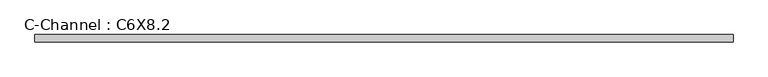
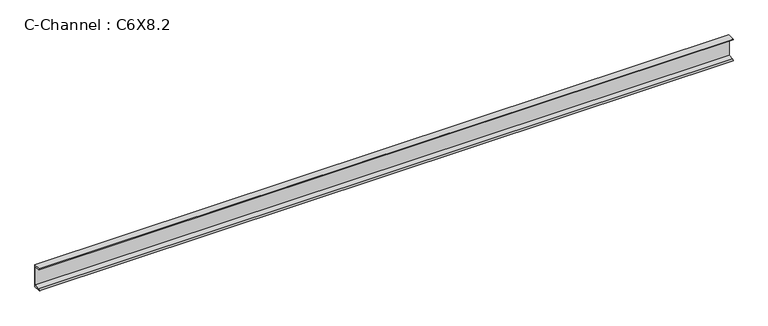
"""IFC4 building model written with IfcOpenShell, lengths in millimetres: beam geometry, C-Channel : C6X8.2."""

import ifcopenshell
import ifcopenshell.guid

model = None  # the IFC model being written
_history = None  # IfcOwnerHistory: only IFC2X3 demands one
_inside = {}  # id of a spatial element -> (the spatial element, [elements in it])
_under = {}  # id of a project, library or spatial element -> (it, [spatial elements below it])
_declared = {}  # id of a project -> (the project, [libraries it declares])
_typed = {}  # id of a type object -> (the type object, [elements of that type])
_made_of = {}  # id of a material, layer set ... -> (it, [elements and type objects made of it])


def new_model(schema):
    """Start an empty IFC model of exactly this schema.

    Asked for "IFC4X3", IfcOpenShell would pick the latest addendum, in which some entities
    have other attributes; the version numbers below select the first issue.
    IFC2X3 requires an IfcOwnerHistory on every rooted entity: one is made here for all.
    """
    global model, _history
    if schema == "IFC4X3":
        model = ifcopenshell.file(schema_version=(4, 3, 0, 0))
    else:
        model = ifcopenshell.file(schema=schema)
    _inside.clear()
    _under.clear()
    _declared.clear()
    _typed.clear()
    _made_of.clear()
    _history = None
    if model.schema == "IFC2X3":
        org = make("IfcOrganization", Name="unknown")
        user = make(
            "IfcPersonAndOrganization",
            ThePerson=make("IfcPerson", FamilyName="unknown"),
            TheOrganization=org,
        )
        app = make(
            "IfcApplication",
            ApplicationDeveloper=org,
            Version="unknown",
            ApplicationFullName="unknown",
            ApplicationIdentifier="unknown",
        )
        _history = make(
            "IfcOwnerHistory",
            OwningUser=user,
            OwningApplication=app,
            ChangeAction="ADDED",
            CreationDate=0,
        )
    return model


def make(cls, **values):
    """One entity of the class cls with the attributes given. An attribute that is None is left unset."""
    return model.create_entity(
        cls, **{name: value for name, value in values.items() if value is not None}
    )


def rooted(cls, **values):
    """An entity with a GlobalId (a new one), such as an element, a storey or a relation."""
    return make(cls, GlobalId=ifcopenshell.guid.new(), OwnerHistory=_history, **values)


def si_unit(unit_type, name, prefix=None):
    """IfcSIUnit, for example si_unit("LENGTHUNIT", "METRE", prefix="MILLI")."""
    return make("IfcSIUnit", UnitType=unit_type, Prefix=prefix, Name=name)


def assignment(units):
    """IfcUnitAssignment: the units of a project."""
    return None if units is None else make("IfcUnitAssignment", Units=units)


def point(xyz):
    """IfcCartesianPoint."""
    return None if xyz is None else make("IfcCartesianPoint", Coordinates=xyz)


def direction(xyz):
    """IfcDirection."""
    return None if xyz is None else make("IfcDirection", DirectionRatios=xyz)


def frame(location, z_axis=None, x_axis=None):
    """IfcAxis2Placement3D, a coordinate frame: its origin and axes. An axis left out is left unset."""
    return make(
        "IfcAxis2Placement3D",
        Location=point(location),
        Axis=direction(z_axis),
        RefDirection=direction(x_axis),
    )


def frame_2d(location, x_axis=None):
    """IfcAxis2Placement2D, a coordinate frame in the plane: its origin and x axis."""
    return make(
        "IfcAxis2Placement2D", Location=point(location), RefDirection=direction(x_axis)
    )


def origin():
    """The frame at (0, 0, 0) with its axes left unset."""
    return frame((0.0, 0.0, 0.0))


def place(relative_to, where):
    """IfcLocalPlacement: puts the frame where relative to a parent placement (None: the world)."""
    return make(
        "IfcLocalPlacement", PlacementRelTo=relative_to, RelativePlacement=where
    )


def context(
    kind, dimensions, precision=None, world=None, true_north=None, identifier=None
):
    """IfcGeometricRepresentationContext, for example the 3D "Model" context."""
    return make(
        "IfcGeometricRepresentationContext",
        ContextIdentifier=identifier,
        ContextType=kind,
        CoordinateSpaceDimension=dimensions,
        Precision=precision,
        WorldCoordinateSystem=world,
        TrueNorth=true_north,
    )


def project(units=None, contexts=None):
    """IfcProject with its units and contexts."""
    return rooted(
        "IfcProject",
        Name="project",
        RepresentationContexts=contexts,
        UnitsInContext=assignment(units),
    )


def spatial(cls, under=None, at=None, **own):
    """A site, building, storey or space (cls), placed at a placement, below another one or the project."""
    s = rooted(cls, ObjectPlacement=at, **own)
    if under is not None:
        _under.setdefault(under.id(), (under, []))[1].append(s)
    return s


def polyline(points):
    """IfcPolyline through the points."""
    return make("IfcPolyline", Points=[point(p) for p in points])


def circle_curve(where, radius):
    """IfcCircle in the frame where."""
    return make("IfcCircle", Position=where, Radius=radius)


def trimmed(basis, trim1, trim2, sense, master):
    """IfcTrimmedCurve: the piece of a basis curve between two trims."""
    return make(
        "IfcTrimmedCurve",
        BasisCurve=basis,
        Trim1=trim1,
        Trim2=trim2,
        SenseAgreement=sense,
        MasterRepresentation=master,
    )


def segment(curve, same_sense, transition):
    """IfcCompositeCurveSegment."""
    return make(
        "IfcCompositeCurveSegment",
        Transition=transition,
        SameSense=same_sense,
        ParentCurve=curve,
    )


def composite_curve(segments, self_intersect=None):
    """IfcCompositeCurve: segments joined end to end."""
    return make("IfcCompositeCurve", Segments=segments, SelfIntersect=self_intersect)


def outline(outer, holes=None, kind="AREA"):
    """IfcArbitraryClosedProfileDef: a profile drawn as a closed curve; with holes, ...WithVoids."""
    if holes is None:
        return make("IfcArbitraryClosedProfileDef", ProfileType=kind, OuterCurve=outer)
    return make(
        "IfcArbitraryProfileDefWithVoids",
        ProfileType=kind,
        OuterCurve=outer,
        InnerCurves=holes,
    )


def extrude(swept, where, along, depth):
    """IfcExtrudedAreaSolid: the profile swept, set in the frame where, extruded along a direction by depth."""
    return make(
        "IfcExtrudedAreaSolid",
        SweptArea=swept,
        Position=where,
        ExtrudedDirection=direction(along),
        Depth=depth,
    )


def shape(context_of_items, identifier, shape_type, items):
    """IfcShapeRepresentation: the items that make up one representation, for example the "Body"."""
    return make(
        "IfcShapeRepresentation",
        ContextOfItems=context_of_items,
        RepresentationIdentifier=identifier,
        RepresentationType=shape_type,
        Items=items,
    )


def source(mapping_origin, context_of_items, identifier, shape_type, items):
    """IfcRepresentationMap: a shape defined once, which mapped items show again and again."""
    return make(
        "IfcRepresentationMap",
        MappingOrigin=mapping_origin,
        MappedRepresentation=shape(context_of_items, identifier, shape_type, items),
    )


def transform(
    local_origin,
    x_axis=None,
    y_axis=None,
    z_axis=None,
    scale=None,
    scale2=None,
    scale3=None,
    uniform=True,
):
    """IfcCartesianTransformationOperator3D, or its non-uniform kind. x_axis, y_axis, z_axis: its Axis1, 2, 3."""
    if uniform:
        return make(
            "IfcCartesianTransformationOperator3D",
            Axis1=direction(x_axis),
            Axis2=direction(y_axis),
            LocalOrigin=point(local_origin),
            Scale=scale,
            Axis3=direction(z_axis),
        )
    return make(
        "IfcCartesianTransformationOperator3DnonUniform",
        Axis1=direction(x_axis),
        Axis2=direction(y_axis),
        LocalOrigin=point(local_origin),
        Scale=scale,
        Axis3=direction(z_axis),
        Scale2=scale2,
        Scale3=scale3,
    )


def mapped(mapping_source, mapping_target):
    """IfcMappedItem: shows the shape of a source again, moved by a transform."""
    return make(
        "IfcMappedItem", MappingSource=mapping_source, MappingTarget=mapping_target
    )


def made_of(thing, what):
    """Note that an element or type object is made of a material, layer set ...; save() writes the relation."""
    if what is not None:
        _made_of.setdefault(what.id(), (what, []))[1].append(thing)
    return thing


def element(
    cls,
    number,
    at=None,
    inside=None,
    cuts=None,
    type_object=None,
    material=None,
    context=None,
    identifier="Body",
    shape_type=None,
    held_by="IfcProductDefinitionShape",
    body=None,
    shapes=None,
    **own,
):
    """One element of the class cls, such as IfcWall. Its Tag is "e" and its number.

    at: its placement. inside: the storey or other place that contains it. cuts: it is an
    opening in that element (IfcRelVoidsElement). A single representation is given by context,
    identifier, shape_type and body (its items); several are given by shapes. held_by: the class
    of the entity that holds the representations. save() writes the other relations.
    """
    e = rooted(cls, Tag="e%d" % number, ObjectPlacement=at, **own)
    if body is not None:
        shapes = [shape(context, identifier, shape_type, body)]
    if shapes is not None:
        e.Representation = make(held_by, Representations=shapes)
    if inside is not None:
        _inside.setdefault(inside.id(), (inside, []))[1].append(e)
    if cuts is not None:
        rooted(
            "IfcRelVoidsElement", RelatingBuildingElement=cuts, RelatedOpeningElement=e
        )
    if type_object is not None:
        _typed.setdefault(type_object.id(), (type_object, []))[1].append(e)
    return made_of(e, material)


def aggregate(whole, parts):
    """IfcRelAggregates: a whole, such as a stair, and the parts it consists of."""
    return rooted("IfcRelAggregates", RelatingObject=whole, RelatedObjects=parts)


def save(model, path):
    """Write the relations noted so far, then the file.

    IfcRelAggregates (storeys below a building ...), IfcRelContainedInSpatialStructure (elements
    in a storey), IfcRelDefinesByType, IfcRelAssociatesMaterial and IfcRelDeclares: one each for
    every whole, place, type object, material and project.
    """
    for whole, parts in _under.values():
        aggregate(whole, parts)
    for where, things in _inside.values():
        rooted(
            "IfcRelContainedInSpatialStructure",
            RelatedElements=things,
            RelatingStructure=where,
        )
    for kind, things in _typed.values():
        rooted("IfcRelDefinesByType", RelatedObjects=things, RelatingType=kind)
    for what, things in _made_of.values():
        rooted("IfcRelAssociatesMaterial", RelatedObjects=things, RelatingMaterial=what)
    for by, libraries in _declared.values():
        rooted("IfcRelDeclares", RelatingContext=by, RelatedDefinitions=libraries)
    model.write(path)


def c_channel_c6x8_2_4cab7d2d(model_context):
    return source(origin(), model_context, "Body", "SweptSolid", [
        extrude(outline(composite_curve([segment(polyline([(13.0048, 76.2), (13.0048, -76.2), (-35.7632, -76.2)]), True, "CONTINUOUS"), segment(trimmed(circle_curve(frame_2d((-27.051, -76.2)), 8.7122), [point((-35.7632, -76.2))], [point((-27.051, -67.4878))], False, "CARTESIAN"), True, "CONTINUOUS"), segment(polyline([(-27.051, -67.4878), (7.9248, -61.9481775), (7.9248, 61.9481775), (-27.051, 67.4878)]), True, "CONTINUOUS"), segment(trimmed(circle_curve(frame_2d((-27.051, 76.2)), 8.7122), [point((-27.051, 67.4878))], [point((-35.7632, 76.2))], False, "CARTESIAN"), True, "CONTINUOUS"), segment(polyline([(-35.7632, 76.2), (13.0048, 76.2)]), True, "CONTINUOUS")], self_intersect=False)), frame((-2215.5671121, 0.0, 0.0), z_axis=(1.0, 0.0, 0.0), x_axis=(0.0, 1.0, 0.0)), (0.0, 0.0, 1.0), 4578.3802416),
    ])


if __name__ == "__main__":
    model = new_model("IFC4")
    model_context = context("Model", 3, world=origin())
    ifc_project = project(units=[si_unit("LENGTHUNIT", "METRE", prefix="MILLI")], contexts=[model_context])
    site = spatial("IfcSite", under=ifc_project)
    building = spatial("IfcBuilding", under=site)
    placement = place(None, origin())
    c_channel_c6x8_2_shape = c_channel_c6x8_2_4cab7d2d(model_context)
    element("IfcBeam", 1, ObjectType="C-Channel : C6X8.2", at=placement, inside=building, context=model_context, shape_type="MappedRepresentation", body=[
        mapped(c_channel_c6x8_2_shape, transform((0.0, 0.0, 0.0), x_axis=(1.0, 0.0, 0.0), y_axis=(0.0, 1.0, 0.0), z_axis=(0.0, 0.0, 1.0))),
    ])
    save(model, "model.ifc")
